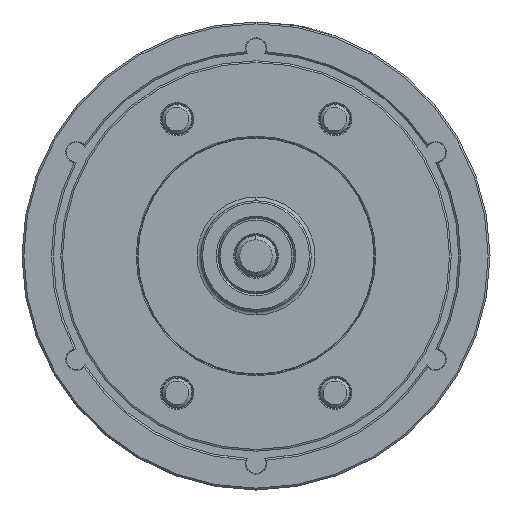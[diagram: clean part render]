
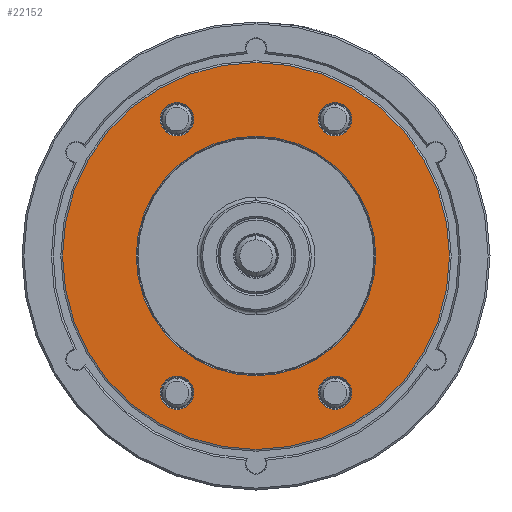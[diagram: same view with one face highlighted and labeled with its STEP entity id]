
A CAD part, left-side view. The second image highlights one B-rep face of the part: STEP entity #22152.
In plain terms, the highlighted planar face has unit normal (-1, 0, 0).
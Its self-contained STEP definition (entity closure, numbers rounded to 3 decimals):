
#186 = ORIENTED_EDGE ( 'NONE', *, *, #12177, .T. ) ;
#650 = VERTEX_POINT ( 'NONE', #2397 ) ;
#885 = CIRCLE ( 'NONE', #3959, 9.1 ) ;
#1005 = CIRCLE ( 'NONE', #4296, 9.1 ) ;
#1314 = FACE_BOUND ( 'NONE', #16901, .T. ) ;
#1700 = AXIS2_PLACEMENT_3D ( 'NONE', #3479, #29108, #7186 ) ;
#2397 = CARTESIAN_POINT ( 'NONE',  ( -100., 42.862, 65.14 ) ) ;
#3087 = EDGE_CURVE ( 'NONE', #31890, #37143, #1005, .T. ) ;
#3170 = EDGE_LOOP ( 'NONE', ( #39936, #31793 ) ) ;
#3479 = CARTESIAN_POINT ( 'NONE',  ( -100., 0., 0. ) ) ;
#3797 = ORIENTED_EDGE ( 'NONE', *, *, #32082, .F. ) ;
#3959 = AXIS2_PLACEMENT_3D ( 'NONE', #16551, #42285, #20219 ) ;
#4081 = DIRECTION ( 'NONE',  ( 1., 0., 0. ) ) ;
#4258 = CARTESIAN_POINT ( 'NONE',  ( -100., 42.863, -65.14 ) ) ;
#4296 = AXIS2_PLACEMENT_3D ( 'NONE', #43703, #21602, #47502 ) ;
#4669 = EDGE_LOOP ( 'NONE', ( #186, #27364 ) ) ;
#5317 = AXIS2_PLACEMENT_3D ( 'NONE', #9186, #34798, #12886 ) ;
#5618 = DIRECTION ( 'NONE',  ( 1., 0., 0. ) ) ;
#6074 = EDGE_LOOP ( 'NONE', ( #31712, #8760 ) ) ;
#6555 = CARTESIAN_POINT ( 'NONE',  ( -100., 0., 105. ) ) ;
#6957 = EDGE_CURVE ( 'NONE', #24366, #36035, #31263, .T. ) ;
#7094 = CIRCLE ( 'NONE', #23330, 9.1 ) ;
#7186 = DIRECTION ( 'NONE',  ( 0., 1., 0. ) ) ;
#8069 = CIRCLE ( 'NONE', #1700, 65. ) ;
#8481 = DIRECTION ( 'NONE',  ( 1., 0., 0. ) ) ;
#8760 = ORIENTED_EDGE ( 'NONE', *, *, #11976, .T. ) ;
#9186 = CARTESIAN_POINT ( 'NONE',  ( -100., 42.863, -74.24 ) ) ;
#9480 = CARTESIAN_POINT ( 'NONE',  ( -100., 42.862, 83.34 ) ) ;
#9995 = VERTEX_POINT ( 'NONE', #24464 ) ;
#10574 = CIRCLE ( 'NONE', #22029, 9.1 ) ;
#10965 = CARTESIAN_POINT ( 'NONE',  ( -100., 0., -65. ) ) ;
#11344 = EDGE_CURVE ( 'NONE', #32347, #42086, #8069, .T. ) ;
#11976 = EDGE_CURVE ( 'NONE', #650, #46538, #34941, .T. ) ;
#12177 = EDGE_CURVE ( 'NONE', #9995, #24434, #41347, .T. ) ;
#12801 = CARTESIAN_POINT ( 'NONE',  ( -100., 42.862, 74.24 ) ) ;
#12886 = DIRECTION ( 'NONE',  ( 0., 0., -1. ) ) ;
#13111 = AXIS2_PLACEMENT_3D ( 'NONE', #12801, #38396, #16478 ) ;
#13256 = CARTESIAN_POINT ( 'NONE',  ( -100., 0., 0. ) ) ;
#13412 = EDGE_LOOP ( 'NONE', ( #38768, #22108 ) ) ;
#14342 = CIRCLE ( 'NONE', #27558, 105. ) ;
#14569 = CIRCLE ( 'NONE', #30712, 105. ) ;
#14983 = CARTESIAN_POINT ( 'NONE',  ( -100., 0., 65. ) ) ;
#15804 = PLANE ( 'NONE',  #45686 ) ;
#15967 = DIRECTION ( 'NONE',  ( 0., 1., 0. ) ) ;
#16478 = DIRECTION ( 'NONE',  ( 0., 0., -1. ) ) ;
#16551 = CARTESIAN_POINT ( 'NONE',  ( -100., -42.863, -74.24 ) ) ;
#16901 = EDGE_LOOP ( 'NONE', ( #24473, #45914 ) ) ;
#16918 = DIRECTION ( 'NONE',  ( 0., 1., 0. ) ) ;
#16976 = DIRECTION ( 'NONE',  ( 1., 0., 0. ) ) ;
#17153 = VERTEX_POINT ( 'NONE', #6555 ) ;
#18504 = CARTESIAN_POINT ( 'NONE',  ( -100., -42.862, 74.24 ) ) ;
#18759 = ORIENTED_EDGE ( 'NONE', *, *, #21986, .F. ) ;
#19690 = FACE_BOUND ( 'NONE', #6074, .T. ) ;
#20219 = DIRECTION ( 'NONE',  ( 0., 0., -1. ) ) ;
#20848 = FACE_BOUND ( 'NONE', #3170, .T. ) ;
#21096 = DIRECTION ( 'NONE',  ( 1., 0., 0. ) ) ;
#21602 = DIRECTION ( 'NONE',  ( 1., 0., 0. ) ) ;
#21970 = EDGE_CURVE ( 'NONE', #36035, #24366, #7094, .T. ) ;
#21986 = EDGE_CURVE ( 'NONE', #17153, #46160, #14569, .T. ) ;
#22029 = AXIS2_PLACEMENT_3D ( 'NONE', #27542, #5618, #31230 ) ;
#22108 = ORIENTED_EDGE ( 'NONE', *, *, #3087, .T. ) ;
#22152 = ADVANCED_FACE ( 'NONE', ( #30590, #1314, #39200, #29417, #20848, #19690 ), #15804, .F. ) ;
#22196 = DIRECTION ( 'NONE',  ( 0., 0., -1. ) ) ;
#23330 = AXIS2_PLACEMENT_3D ( 'NONE', #18504, #44324, #22196 ) ;
#23463 = CARTESIAN_POINT ( 'NONE',  ( -100., 0., -105. ) ) ;
#24366 = VERTEX_POINT ( 'NONE', #43093 ) ;
#24434 = VERTEX_POINT ( 'NONE', #47225 ) ;
#24464 = CARTESIAN_POINT ( 'NONE',  ( -100., -42.863, -65.14 ) ) ;
#24473 = ORIENTED_EDGE ( 'NONE', *, *, #44121, .T. ) ;
#25919 = EDGE_CURVE ( 'NONE', #37143, #31890, #41770, .T. ) ;
#26036 = CARTESIAN_POINT ( 'NONE',  ( -100., 0., 0. ) ) ;
#27364 = ORIENTED_EDGE ( 'NONE', *, *, #35094, .T. ) ;
#27542 = CARTESIAN_POINT ( 'NONE',  ( -100., 42.862, 74.24 ) ) ;
#27558 = AXIS2_PLACEMENT_3D ( 'NONE', #13256, #38873, #16918 ) ;
#29108 = DIRECTION ( 'NONE',  ( 1., 0., 0. ) ) ;
#29417 = FACE_BOUND ( 'NONE', #4669, .T. ) ;
#29727 = DIRECTION ( 'NONE',  ( 0., 1., 0. ) ) ;
#30416 = CARTESIAN_POINT ( 'NONE',  ( -100., -42.862, 74.24 ) ) ;
#30526 = CARTESIAN_POINT ( 'NONE',  ( -100., -105., 0. ) ) ;
#30590 = FACE_OUTER_BOUND ( 'NONE', #38172, .T. ) ;
#30712 = AXIS2_PLACEMENT_3D ( 'NONE', #26036, #4081, #29727 ) ;
#31230 = DIRECTION ( 'NONE',  ( 0., 0., -1. ) ) ;
#31263 = CIRCLE ( 'NONE', #43824, 9.1 ) ;
#31712 = ORIENTED_EDGE ( 'NONE', *, *, #44049, .T. ) ;
#31793 = ORIENTED_EDGE ( 'NONE', *, *, #21970, .T. ) ;
#31890 = VERTEX_POINT ( 'NONE', #37551 ) ;
#32082 = EDGE_CURVE ( 'NONE', #46160, #17153, #14342, .T. ) ;
#32347 = VERTEX_POINT ( 'NONE', #10965 ) ;
#34086 = DIRECTION ( 'NONE',  ( 0., 0., -1. ) ) ;
#34798 = DIRECTION ( 'NONE',  ( 1., 0., 0. ) ) ;
#34941 = CIRCLE ( 'NONE', #13111, 9.1 ) ;
#35094 = EDGE_CURVE ( 'NONE', #24434, #9995, #885, .T. ) ;
#36035 = VERTEX_POINT ( 'NONE', #36562 ) ;
#36562 = CARTESIAN_POINT ( 'NONE',  ( -100., -42.862, 65.14 ) ) ;
#37143 = VERTEX_POINT ( 'NONE', #4258 ) ;
#37464 = CIRCLE ( 'NONE', #41809, 65. ) ;
#37551 = CARTESIAN_POINT ( 'NONE',  ( -100., 42.863, -83.34 ) ) ;
#37851 = DIRECTION ( 'NONE',  ( 1., 0., 0. ) ) ;
#38172 = EDGE_LOOP ( 'NONE', ( #3797, #18759 ) ) ;
#38396 = DIRECTION ( 'NONE',  ( 1., 0., 0. ) ) ;
#38768 = ORIENTED_EDGE ( 'NONE', *, *, #25919, .T. ) ;
#38873 = DIRECTION ( 'NONE',  ( 1., 0., 0. ) ) ;
#38937 = CARTESIAN_POINT ( 'NONE',  ( -100., 0., 0. ) ) ;
#39200 = FACE_BOUND ( 'NONE', #13412, .T. ) ;
#39936 = ORIENTED_EDGE ( 'NONE', *, *, #6957, .T. ) ;
#40142 = AXIS2_PLACEMENT_3D ( 'NONE', #43163, #21096, #46984 ) ;
#41347 = CIRCLE ( 'NONE', #40142, 9.1 ) ;
#41770 = CIRCLE ( 'NONE', #5317, 9.1 ) ;
#41809 = AXIS2_PLACEMENT_3D ( 'NONE', #38937, #16976, #42736 ) ;
#42086 = VERTEX_POINT ( 'NONE', #14983 ) ;
#42285 = DIRECTION ( 'NONE',  ( 1., 0., 0. ) ) ;
#42736 = DIRECTION ( 'NONE',  ( 0., 1., 0. ) ) ;
#43093 = CARTESIAN_POINT ( 'NONE',  ( -100., -42.862, 83.34 ) ) ;
#43163 = CARTESIAN_POINT ( 'NONE',  ( -100., -42.863, -74.24 ) ) ;
#43703 = CARTESIAN_POINT ( 'NONE',  ( -100., 42.863, -74.24 ) ) ;
#43824 = AXIS2_PLACEMENT_3D ( 'NONE', #30416, #8481, #34086 ) ;
#44049 = EDGE_CURVE ( 'NONE', #46538, #650, #10574, .T. ) ;
#44121 = EDGE_CURVE ( 'NONE', #42086, #32347, #37464, .T. ) ;
#44324 = DIRECTION ( 'NONE',  ( 1., 0., 0. ) ) ;
#45686 = AXIS2_PLACEMENT_3D ( 'NONE', #30526, #37851, #15967 ) ;
#45914 = ORIENTED_EDGE ( 'NONE', *, *, #11344, .T. ) ;
#46160 = VERTEX_POINT ( 'NONE', #23463 ) ;
#46538 = VERTEX_POINT ( 'NONE', #9480 ) ;
#46984 = DIRECTION ( 'NONE',  ( 0., 0., -1. ) ) ;
#47225 = CARTESIAN_POINT ( 'NONE',  ( -100., -42.863, -83.34 ) ) ;
#47502 = DIRECTION ( 'NONE',  ( 0., 0., -1. ) ) ;
